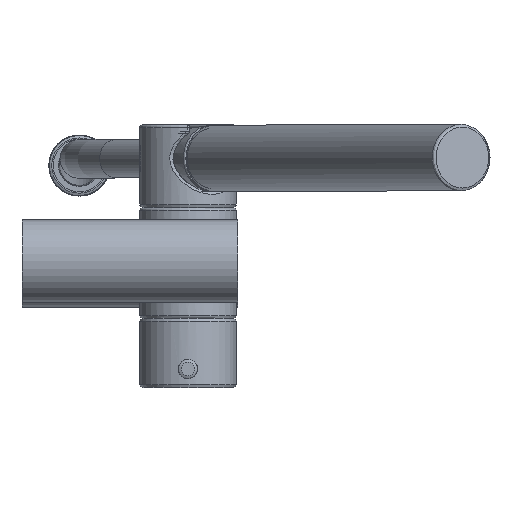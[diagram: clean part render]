
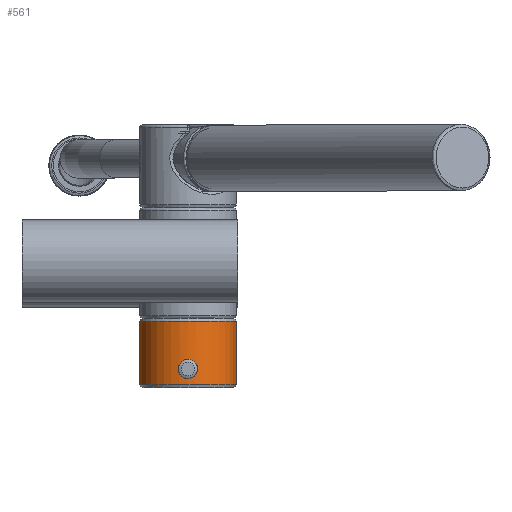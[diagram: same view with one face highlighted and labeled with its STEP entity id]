
A CAD part, top view. The second image highlights one B-rep face of the part: STEP entity #561.
In plain terms, the highlighted cylindrical face has radius 17.5 mm (diameter 35 mm), a full revolution.
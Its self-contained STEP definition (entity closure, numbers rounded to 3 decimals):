
#561=ADVANCED_FACE('',(#5678,#5680,#5682),#5684,.T.);
#5678=FACE_OUTER_BOUND('',#5679,.T.);
#5679=EDGE_LOOP('',(#18728));
#5680=FACE_OUTER_BOUND('',#5681,.T.);
#5681=EDGE_LOOP('',(#18729));
#5682=FACE_BOUND('',#5683,.T.);
#5683=EDGE_LOOP('',(#18730));
#5684=CYLINDRICAL_SURFACE('',#5685,17.5);
#5685=AXIS2_PLACEMENT_3D('',#5686,#5687,#5688);
#5686=CARTESIAN_POINT('',(60.,-20.,550.));
#5687=DIRECTION('',(0.,-1.,0.));
#5688=DIRECTION('',(1.,0.,0.));
#18728=ORIENTED_EDGE('',*,*,#20786,.T.);
#18729=ORIENTED_EDGE('',*,*,#20787,.F.);
#18730=ORIENTED_EDGE('',*,*,#20788,.F.);
#20786=EDGE_CURVE('',#21824,#21824,#21825,.T.);
#20787=EDGE_CURVE('',#21826,#21826,#21827,.T.);
#20788=EDGE_CURVE('',#21828,#21828,#21829,.T.);
#21824=VERTEX_POINT('',#23928);
#21825=CIRCLE('',#23929,17.5);
#21826=VERTEX_POINT('',#23933);
#21827=CIRCLE('',#23934,17.5);
#21828=VERTEX_POINT('',#23938);
#21829=B_SPLINE_CURVE_WITH_KNOTS('',3,
(#23939,#23940,#23941,#23942,#23943,#23944,#23945,#23946,#23947,#23948,#23949,#23950,
#23951,#23952,#23953,#23954,#23955,#23956,#23957,#23958,#23959,#23960,#23961,#23962,
#23963,#23964,#23965,#23966,#23967,#23968,#23969,#23970,#23971,#23972,#23973,#23974,
#23975,#23976,#23977,#23978,#23979,#23980,#23981,#23982,#23983,#23984,#23985,#23986,
#23987,#23988,#23989,#23990,#23991,#23992,#23993,#23994,#23995,#23996,#23997,#23998,
#23999,#24000,#24001,#24002,#24003,#24004,#24005,#24006,#24007,#24008),
.UNSPECIFIED.,.T.,.F.,
(4,1,1,1,1,1,1,1,1,1,1,1,1,1,1,1,1,1,1,1,1,1,1,1,1,1,1,1,1,1,1,1,1,1,1,1,1,1,1,1,
1,1,1,1,1,1,1,1,1,1,1,1,1,1,1,1,1,1,1,1,1,1,1,1,1,1,1,4),
(0.,0.015,0.03,0.046,0.063,
0.08,0.097,0.114,0.131,0.147,
0.167,0.186,0.204,0.216,0.226,
0.235,0.245,0.25,0.255,0.265,
0.275,0.286,0.3,0.317,0.335,
0.35,0.365,0.38,0.398,0.416,
0.435,0.453,0.47,0.485,0.499,
0.5,0.513,0.527,0.542,0.558,
0.575,0.592,0.609,0.626,0.642,
0.662,0.681,0.699,0.714,0.728,
0.741,0.75,0.751,0.761,0.775,
0.792,0.812,0.83,0.845,0.86,
0.875,0.893,0.911,0.931,0.949,
0.967,0.984,1.),
.UNSPECIFIED.);
#23928=CARTESIAN_POINT('',(77.5,-21.,550.));
#23929=AXIS2_PLACEMENT_3D('',#23930,#23931,#23932);
#23930=CARTESIAN_POINT('',(60.,-21.,550.));
#23931=DIRECTION('',(0.,-1.,0.));
#23932=DIRECTION('',(1.,0.,0.));
#23933=CARTESIAN_POINT('',(77.5,-44.,550.));
#23934=AXIS2_PLACEMENT_3D('',#23935,#23936,#23937);
#23935=CARTESIAN_POINT('',(60.,-44.,550.));
#23936=DIRECTION('',(0.,-1.,0.));
#23937=DIRECTION('',(1.,0.,0.));
#23938=CARTESIAN_POINT('',(63.5,-38.345,567.146));
#23939=CARTESIAN_POINT('',(63.5,-38.345,567.146));
#23940=CARTESIAN_POINT('',(63.5,-38.236,567.146));
#23941=CARTESIAN_POINT('',(63.49,-38.016,567.149));
#23942=CARTESIAN_POINT('',(63.443,-37.683,567.158));
#23943=CARTESIAN_POINT('',(63.359,-37.341,567.175));
#23944=CARTESIAN_POINT('',(63.237,-36.995,567.198));
#23945=CARTESIAN_POINT('',(63.072,-36.653,567.229));
#23946=CARTESIAN_POINT('',(62.871,-36.331,567.263));
#23947=CARTESIAN_POINT('',(62.641,-36.038,567.3));
#23948=CARTESIAN_POINT('',(62.385,-35.775,567.337));
#23949=CARTESIAN_POINT('',(62.088,-35.526,567.376));
#23950=CARTESIAN_POINT('',(61.749,-35.303,567.414));
#23951=CARTESIAN_POINT('',(61.377,-35.118,567.447));
#23952=CARTESIAN_POINT('',(61.042,-34.998,567.47));
#23953=CARTESIAN_POINT('',(60.758,-34.925,567.484));
#23954=CARTESIAN_POINT('',(60.533,-34.883,567.492));
#23955=CARTESIAN_POINT('',(60.321,-34.857,567.497));
#23956=CARTESIAN_POINT('',(60.146,-34.846,567.5));
#23957=CARTESIAN_POINT('',(60.002,-34.844,567.5));
#23958=CARTESIAN_POINT('',(59.855,-34.846,567.5));
#23959=CARTESIAN_POINT('',(59.67,-34.858,567.497));
#23960=CARTESIAN_POINT('',(59.443,-34.887,567.492));
#23961=CARTESIAN_POINT('',(59.189,-34.936,567.482));
#23962=CARTESIAN_POINT('',(58.892,-35.019,567.466));
#23963=CARTESIAN_POINT('',(58.557,-35.148,567.442));
#23964=CARTESIAN_POINT('',(58.23,-35.318,567.411));
#23965=CARTESIAN_POINT('',(57.939,-35.509,567.379));
#23966=CARTESIAN_POINT('',(57.68,-35.717,567.346));
#23967=CARTESIAN_POINT('',(57.431,-35.958,567.311));
#23968=CARTESIAN_POINT('',(57.188,-36.248,567.273));
#23969=CARTESIAN_POINT('',(56.965,-36.586,567.235));
#23970=CARTESIAN_POINT('',(56.781,-36.95,567.202));
#23971=CARTESIAN_POINT('',(56.647,-37.318,567.176));
#23972=CARTESIAN_POINT('',(56.559,-37.675,567.158));
#23973=CARTESIAN_POINT('',(56.511,-38.01,567.149));
#23974=CARTESIAN_POINT('',(56.5,-38.232,567.146));
#23975=CARTESIAN_POINT('',(56.5,-38.436,567.146));
#23976=CARTESIAN_POINT('',(56.508,-38.638,567.148));
#23977=CARTESIAN_POINT('',(56.546,-38.942,567.156));
#23978=CARTESIAN_POINT('',(56.617,-39.263,567.17));
#23979=CARTESIAN_POINT('',(56.726,-39.599,567.191));
#23980=CARTESIAN_POINT('',(56.877,-39.94,567.219));
#23981=CARTESIAN_POINT('',(57.067,-40.267,567.253));
#23982=CARTESIAN_POINT('',(57.288,-40.567,567.289));
#23983=CARTESIAN_POINT('',(57.534,-40.837,567.326));
#23984=CARTESIAN_POINT('',(57.824,-41.095,567.365));
#23985=CARTESIAN_POINT('',(58.155,-41.329,567.404));
#23986=CARTESIAN_POINT('',(58.521,-41.525,567.439));
#23987=CARTESIAN_POINT('',(58.875,-41.666,567.465));
#23988=CARTESIAN_POINT('',(59.209,-41.759,567.483));
#23989=CARTESIAN_POINT('',(59.517,-41.815,567.494));
#23990=CARTESIAN_POINT('',(59.779,-41.84,567.499));
#23991=CARTESIAN_POINT('',(59.948,-41.845,567.5));
#23992=CARTESIAN_POINT('',(60.095,-41.844,567.5));
#23993=CARTESIAN_POINT('',(60.278,-41.837,567.498));
#23994=CARTESIAN_POINT('',(60.573,-41.803,567.492));
#23995=CARTESIAN_POINT('',(60.937,-41.725,567.476));
#23996=CARTESIAN_POINT('',(61.318,-41.596,567.452));
#23997=CARTESIAN_POINT('',(61.672,-41.427,567.421));
#23998=CARTESIAN_POINT('',(61.969,-41.244,567.39));
#23999=CARTESIAN_POINT('',(62.235,-41.045,567.357));
#24000=CARTESIAN_POINT('',(62.492,-40.812,567.322));
#24001=CARTESIAN_POINT('',(62.744,-40.529,567.284));
#24002=CARTESIAN_POINT('',(62.979,-40.197,567.245));
#24003=CARTESIAN_POINT('',(63.177,-39.833,567.21));
#24004=CARTESIAN_POINT('',(63.327,-39.456,567.181));
#24005=CARTESIAN_POINT('',(63.429,-39.079,567.161));
#24006=CARTESIAN_POINT('',(63.487,-38.71,567.149));
#24007=CARTESIAN_POINT('',(63.5,-38.465,567.146));
#24008=CARTESIAN_POINT('',(63.5,-38.345,567.146));
